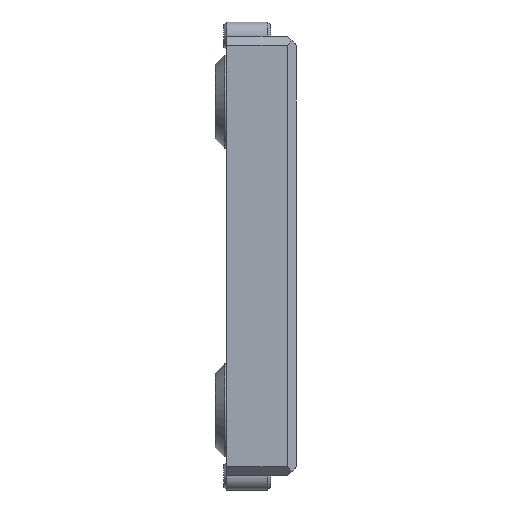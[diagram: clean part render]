
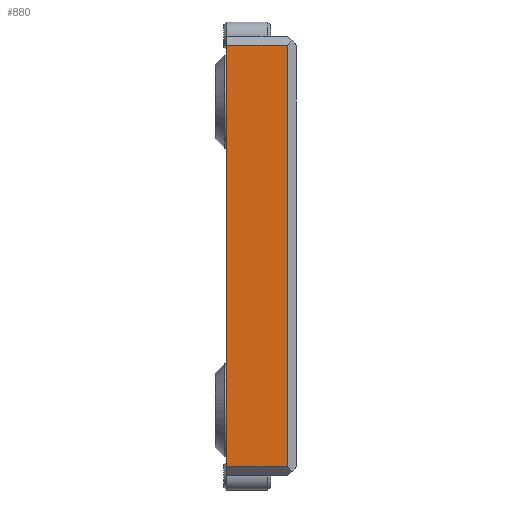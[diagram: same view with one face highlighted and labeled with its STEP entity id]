
A CAD part, left-side view. The second image highlights one B-rep face of the part: STEP entity #880.
In plain terms, the highlighted planar face has unit normal (-1, 0, 0).
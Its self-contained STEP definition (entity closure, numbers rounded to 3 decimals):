
#570=FACE_OUTER_BOUND('',#1893,.T.);
#880=ADVANCED_FACE('',(#570),#1224,.T.);
#1224=PLANE('',#6837);
#1893=EDGE_LOOP('',(#2570,#2571,#2572,#2573));
#2570=ORIENTED_EDGE('',*,*,#4869,.T.);
#2571=ORIENTED_EDGE('',*,*,#4870,.T.);
#2572=ORIENTED_EDGE('',*,*,#4853,.T.);
#2573=ORIENTED_EDGE('',*,*,#4871,.T.);
#4254=VERTEX_POINT('',#9257);
#4255=VERTEX_POINT('',#9259);
#4268=VERTEX_POINT('',#9289);
#4269=VERTEX_POINT('',#9290);
#4853=EDGE_CURVE('',#4255,#4254,#5635,.T.);
#4869=EDGE_CURVE('',#4268,#4269,#5641,.T.);
#4870=EDGE_CURVE('',#4269,#4255,#5642,.T.);
#4871=EDGE_CURVE('',#4254,#4268,#5643,.T.);
#5635=LINE('',#9258,#6273);
#5641=LINE('',#9288,#6279);
#5642=LINE('',#9291,#6280);
#5643=LINE('',#9292,#6281);
#6273=VECTOR('',#7412,1.);
#6279=VECTOR('',#7440,1.);
#6280=VECTOR('',#7441,1.);
#6281=VECTOR('',#7442,1.);
#6837=AXIS2_PLACEMENT_3D('',#9293,#7443,#7444);
#7412=DIRECTION('',(0.,0.,-1.));
#7440=DIRECTION('',(0.,0.,1.));
#7441=DIRECTION('',(0.,1.,0.));
#7442=DIRECTION('',(0.,-1.,0.));
#7443=DIRECTION('',(-1.,0.,0.));
#7444=DIRECTION('',(0.,1.,0.));
#9257=CARTESIAN_POINT('',(7.081,-468.976,63.158));
#9258=CARTESIAN_POINT('',(7.081,-468.976,85.658));
#9259=CARTESIAN_POINT('',(7.081,-468.976,108.158));
#9288=CARTESIAN_POINT('',(7.081,-475.476,85.658));
#9289=CARTESIAN_POINT('',(7.081,-475.476,63.158));
#9290=CARTESIAN_POINT('',(7.081,-475.476,108.158));
#9291=CARTESIAN_POINT('',(7.081,-468.976,108.158));
#9292=CARTESIAN_POINT('',(7.081,-468.976,63.158));
#9293=CARTESIAN_POINT('',(7.081,-468.976,85.658));
